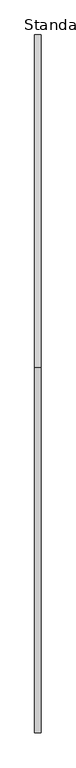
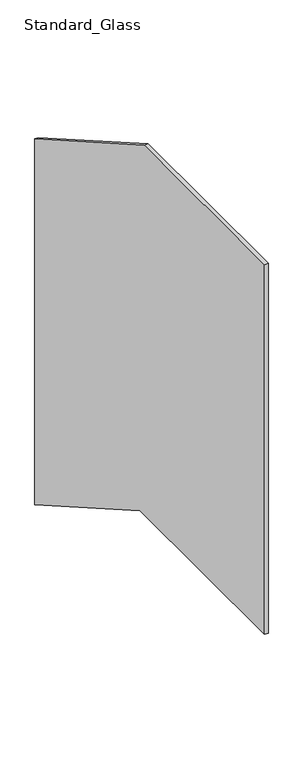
"""IFC4 building model written with IfcOpenShell, lengths in millimetres: railing geometry, Baluster-Landing-Panel-VIVA-VISIO-Lower : Standard_Glass."""

from ifc_helpers import new_model, si_unit, frame, origin, place, context, project, spatial, polyline, outline, extrude, source, transform, mapped, element, save


def standard_glass_8e83f89b(model_context):
    return source(origin(), model_context, "Body", "SweptSolid", [
        extrude(outline(polyline([(-483.1849138, 1087.12), (5.0108793, 808.2061453), (5.0108793, -185.7323924), (-464.4467562, 82.4760612), (-1018.33476, 82.4760612), (-1018.33476, 1087.12), (-483.1849138, 1087.12)])), frame((33.3375, 0.0, 0.0), z_axis=(1.0, 0.0, 0.0), x_axis=(0.0, 1.0, 0.0)), (0.0, 0.0, 1.0), 9.525),
    ])


if __name__ == "__main__":
    model = new_model("IFC4")
    model_context = context("Model", 3, world=origin())
    ifc_project = project(units=[si_unit("LENGTHUNIT", "METRE", prefix="MILLI")], contexts=[model_context])
    site = spatial("IfcSite", under=ifc_project)
    building = spatial("IfcBuilding", under=site)
    placement = place(None, origin())
    standard_glass_shape = standard_glass_8e83f89b(model_context)
    element("IfcRailing", 1, ObjectType="Baluster-Landing-Panel-VIVA-VISIO-Lower : Standard_Glass", at=placement, inside=building, context=model_context, shape_type="MappedRepresentation", body=[
        mapped(standard_glass_shape, transform((0.0, 0.0, 0.0), x_axis=(1.0, 0.0, 0.0), y_axis=(0.0, 1.0, 0.0), z_axis=(0.0, 0.0, 1.0))),
    ])
    save(model, "model.ifc")
